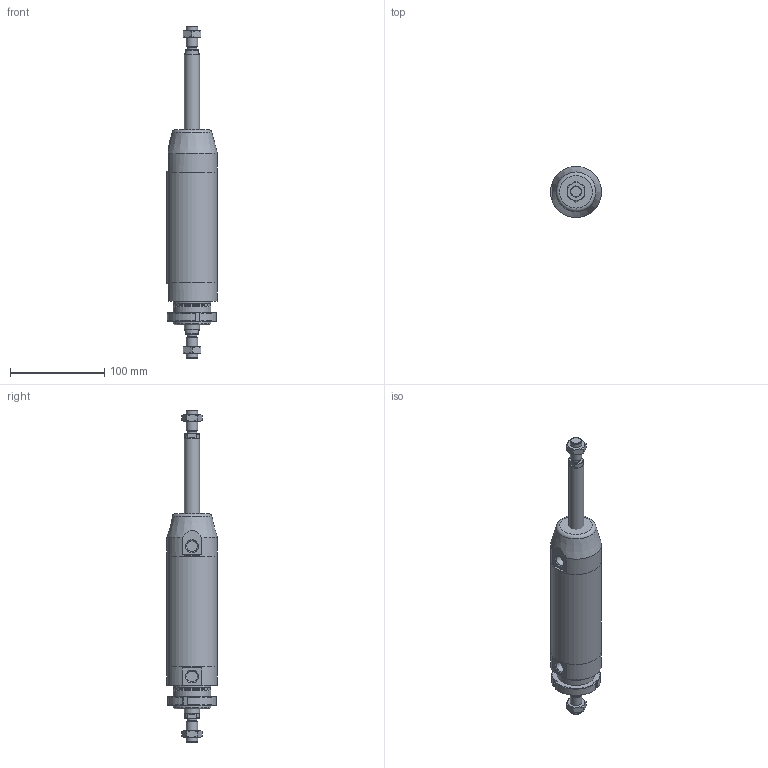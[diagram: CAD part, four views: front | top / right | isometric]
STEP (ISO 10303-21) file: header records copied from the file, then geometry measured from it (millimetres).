
FILE_DESCRIPTION(/* description */ (''),/* implementation_level */ '2;1');
FILE_NAME(/* name */ 'I:\Area Tecnica\Documenti\A-Manieri\_Inventor\12X\12X#T_###_####_#_#\12XCT_050_0075_#_#.stp',/* time_stamp */ '2015-05-13T08:46:02+02:00',/* author */ ('maniean1'),/* organization */ ('Pneumax S.p.A.'),/* preprocessor_version */ 'ST-DEVELOPER v15.2',/* originating_system */ 'Autodesk Inventor 2014',/* authorisation */ '');
FILE_SCHEMA (('AUTOMOTIVE_DESIGN { 1 0 10303 214 3 1 1 }'));
Length unit declared in the file: millimetre
Products named in the file (7): C1250_619-0075; 12X50_604; SP12X50_0075; 12X_50_11; 12X50_613; G12X_050_05; 12XCT_050_0075_#_#
Bounding box: 54 x 54 x 352 mm (x, y, z)
Volume: 338420.9 mm3; surface area: 96445.6 mm2
Topology: 7 solids, 7 shells, 107 faces, 238 edges, 152 vertices
Faces by surface type: plane 54, cylinder 26, cone 26, torus 1
Full cylindrical faces by diameter (mm): 10.2 x2, 11.4 x2, 12 x4, 14 x2, 15.6 x2, 16 x2, 38.2 x1, 40 x3, 50 x2, 54 x3
Entity records: 2546 total; most frequent: CARTESIAN_POINT 474, DIRECTION 433, ORIENTED_EDGE 338, AXIS2_PLACEMENT_3D 187, EDGE_CURVE 169, EDGE_LOOP 150, VERTEX_POINT 129, ADVANCED_FACE 96
